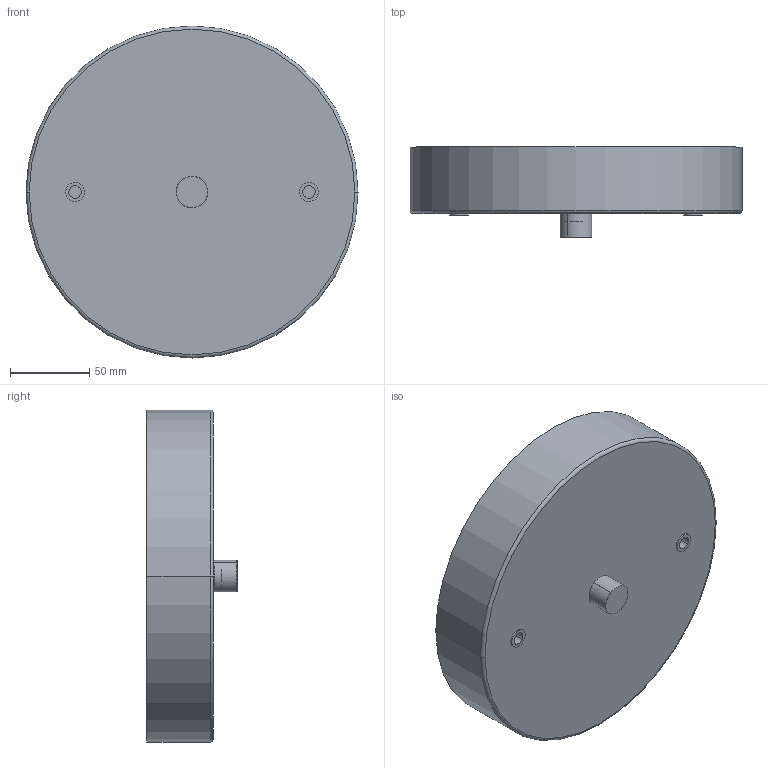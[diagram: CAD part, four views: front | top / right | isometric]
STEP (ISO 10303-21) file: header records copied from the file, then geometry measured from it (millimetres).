
FILE_DESCRIPTION (( 'STEP AP203' ), '1' );
FILE_NAME ('ACCANOPYTO002XX.STEP', '2023-09-14T07:10:54', ( '' ), ( '' ), 'SwSTEP 2.0', 'SolidWorks 2023', '' );
FILE_SCHEMA (( 'CONFIG_CONTROL_DESIGN' ));
Length unit declared in the file: millimetre
Products named in the file (5): WSCM2F0023-0100-02; WSOT12121---------; WSCM2C0155-0100-02; WSCM2A0003-0200-00; ACCANOPYTO002XX
Assembly tree (5 placements, depth 2):
  ACCANOPYTO002XX
    WSCM2F0023-0100-02
    WSOT12121---------  x2
    WSCM2A0003-0200-00
    WSCM2C0155-0100-02
Bounding box: 210 x 57 x 210 mm (x, y, z)
Volume: 113356.1 mm3; surface area: 192515.9 mm2
Topology: 5 solids, 5 shells, 120 faces, 280 edges, 175 vertices
Faces by surface type: cylinder 64, cone 24, plane 20, torus 12
Entity records: 3851 total; most frequent: DIRECTION 664, CARTESIAN_POINT 542, ORIENTED_EDGE 520, AXIS2_PLACEMENT_3D 285, EDGE_CURVE 260, CIRCLE 166, VERTEX_POINT 163, EDGE_LOOP 149
